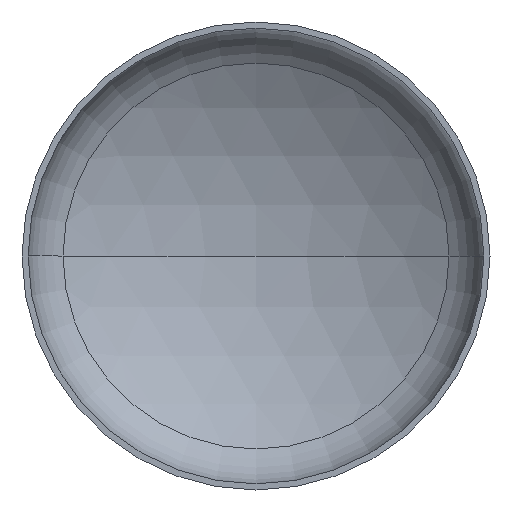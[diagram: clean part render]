
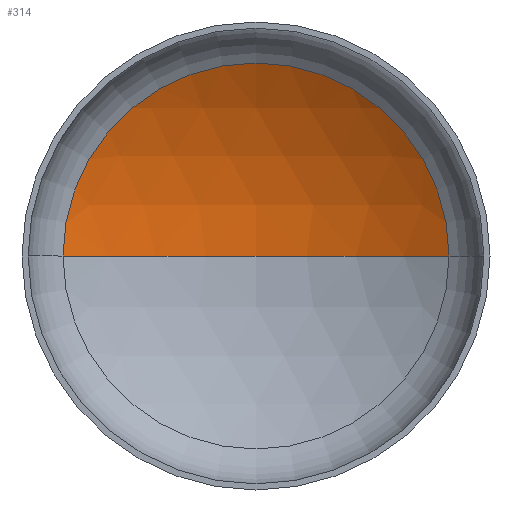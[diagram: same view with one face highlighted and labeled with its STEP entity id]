
A CAD part, front view. The second image highlights one B-rep face of the part: STEP entity #314.
In plain terms, the highlighted spherical face has radius 2080 mm.
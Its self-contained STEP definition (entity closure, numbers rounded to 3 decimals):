
#1 = DIRECTION ( 'NONE',  ( 0., -1., 0. ) ) ;
#6 = VERTEX_POINT ( 'NONE', #259 ) ;
#8 = EDGE_LOOP ( 'NONE', ( #130, #73, #127 ) ) ;
#19 = VERTEX_POINT ( 'NONE', #292 ) ;
#45 = AXIS2_PLACEMENT_3D ( 'NONE', #116, #81, #161 ) ;
#46 = VERTEX_POINT ( 'NONE', #245 ) ;
#60 = AXIS2_PLACEMENT_3D ( 'NONE', #282, #252, #242 ) ;
#68 = AXIS2_PLACEMENT_3D ( 'NONE', #199, #212, #207 ) ;
#73 = ORIENTED_EDGE ( 'NONE', *, *, #154, .T. ) ;
#78 = AXIS2_PLACEMENT_3D ( 'NONE', #271, #1, #107 ) ;
#81 = DIRECTION ( 'NONE',  ( 0., 0., -1. ) ) ;
#107 = DIRECTION ( 'NONE',  ( 1., 0., 0. ) ) ;
#116 = CARTESIAN_POINT ( 'NONE',  ( 0., -1329.599, 0. ) ) ;
#127 = ORIENTED_EDGE ( 'NONE', *, *, #146, .T. ) ;
#130 = ORIENTED_EDGE ( 'NONE', *, *, #177, .F. ) ;
#146 = EDGE_CURVE ( 'NONE', #46, #6, #387, .T. ) ;
#154 = EDGE_CURVE ( 'NONE', #19, #46, #381, .T. ) ;
#161 = DIRECTION ( 'NONE',  ( -1., 0., 0. ) ) ;
#177 = EDGE_CURVE ( 'NONE', #19, #6, #205, .T. ) ;
#199 = CARTESIAN_POINT ( 'NONE',  ( 0., -1329.599, 0. ) ) ;
#205 = CIRCLE ( 'NONE', #60, 2080. ) ;
#207 = DIRECTION ( 'NONE',  ( -1., 0., 0. ) ) ;
#212 = DIRECTION ( 'NONE',  ( 0., 0., -1. ) ) ;
#242 = DIRECTION ( 'NONE',  ( 1., 0., 0. ) ) ;
#245 = CARTESIAN_POINT ( 'NONE',  ( 1072.19, 452.762, 0. ) ) ;
#252 = DIRECTION ( 'NONE',  ( 0., 0., 1. ) ) ;
#255 = FACE_OUTER_BOUND ( 'NONE', #8, .T. ) ;
#259 = CARTESIAN_POINT ( 'NONE',  ( -1072.19, 452.762, 0. ) ) ;
#271 = CARTESIAN_POINT ( 'NONE',  ( 0., 452.762, 0. ) ) ;
#282 = CARTESIAN_POINT ( 'NONE',  ( 0., -1329.599, 0. ) ) ;
#292 = CARTESIAN_POINT ( 'NONE',  ( 0., 750.401, 0. ) ) ;
#314 = ADVANCED_FACE ( 'NONE', ( #255 ), #362, .F. ) ;
#362 = SPHERICAL_SURFACE ( 'NONE', #45, 2080. ) ;
#381 = CIRCLE ( 'NONE', #68, 2080. ) ;
#387 = CIRCLE ( 'NONE', #78, 1072.19 ) ;
